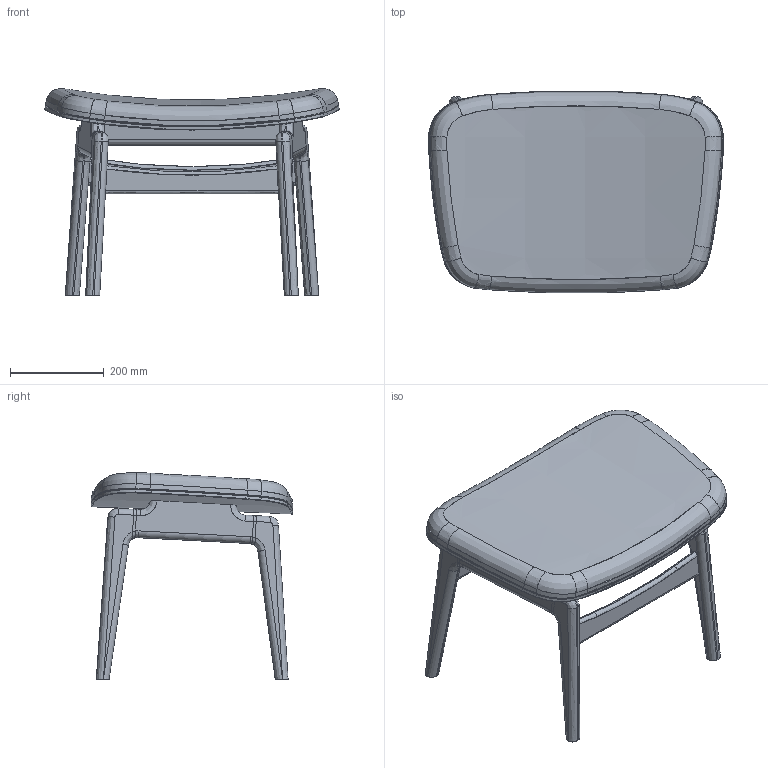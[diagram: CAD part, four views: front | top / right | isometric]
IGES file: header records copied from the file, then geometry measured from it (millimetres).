
Start section: SolidWorks IGES file using analytic representation for surfaces
Global section: file name: C:\Users\adao\Documents\Trab Adao\Desenho técnico PRODUÇÃO\J M S\Catalogo MORE 2016\CHLOE\BANQUETA\3D Banqueta CHLOE.IGS; native system: SolidWorks 2018; preprocessor: SolidWorks 2018; author: Adao; date: 180416.152635; units: millimetre
Bounding box: 628.12 x 430.09 x 440.28 mm (x, y, z)
Surface area: 1553400.1 mm2 (no closed solid volume)
Topology: 0 solids, 0 shells, 296 faces, 3078 edges, 3078 vertices
Faces by surface type: bspline 230, revolution 66
